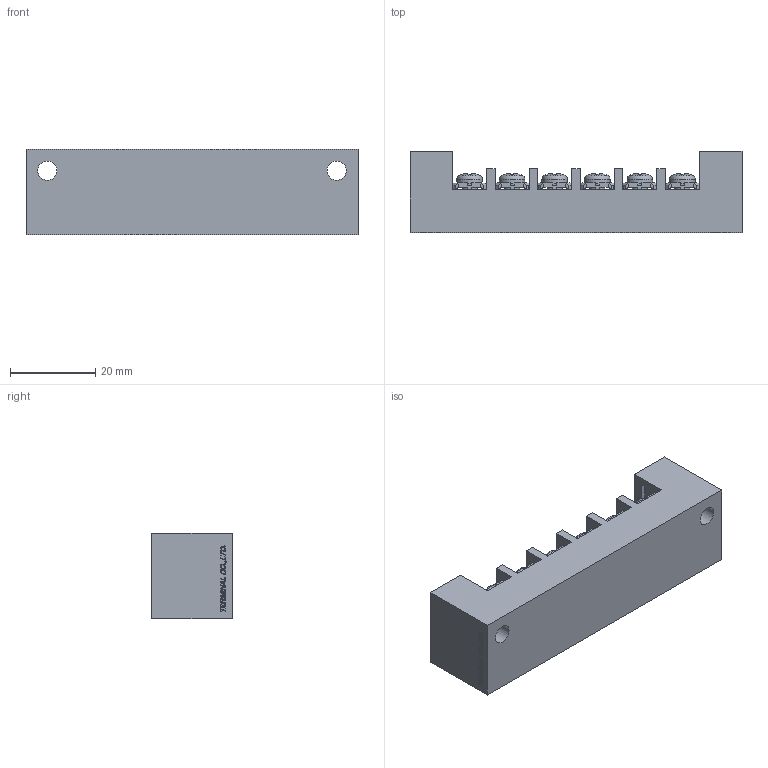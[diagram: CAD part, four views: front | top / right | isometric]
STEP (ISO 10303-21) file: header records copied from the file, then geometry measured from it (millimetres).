
FILE_DESCRIPTION(/* description */ ('Alibre Inc.'),/* implementation_level */ '2;1');
FILE_NAME(/* name */ 'export0',/* time_stamp */ '2016-02-13T17:52:16+09:00',/* author */ (''),/* organization */ (''),/* preprocessor_version */ 'ST-DEVELOPER v14',/* originating_system */ 'Alibre',/* authorisation */ '');
FILE_SCHEMA (('CONFIG_CONTROL_DESIGN'));
Length unit declared in the file: centimetre
Products named in the file (1): ID_1
Bounding box: 78 x 19 x 20 mm (x, y, z)
Volume: 20385 mm3; surface area: 10528.1 mm2
Topology: 1 solids, 13 shells, 1319 faces, 3567 edges, 2258 vertices
Faces by surface type: plane 891, bspline 244, cone 60, extrusion 48, cylinder 40, sphere 24, torus 12
Full cylindrical faces by diameter (mm): 3.5 x24, 4.5 x2, 6 x12, 7 x2
Entity records: 46883 total; most frequent: CARTESIAN_POINT 17368, ORIENTED_EDGE 6958, DIRECTION 4251, EDGE_CURVE 3479, VECTOR 2384, LINE 2360, VERTEX_POINT 2234, EDGE_LOOP 1479
